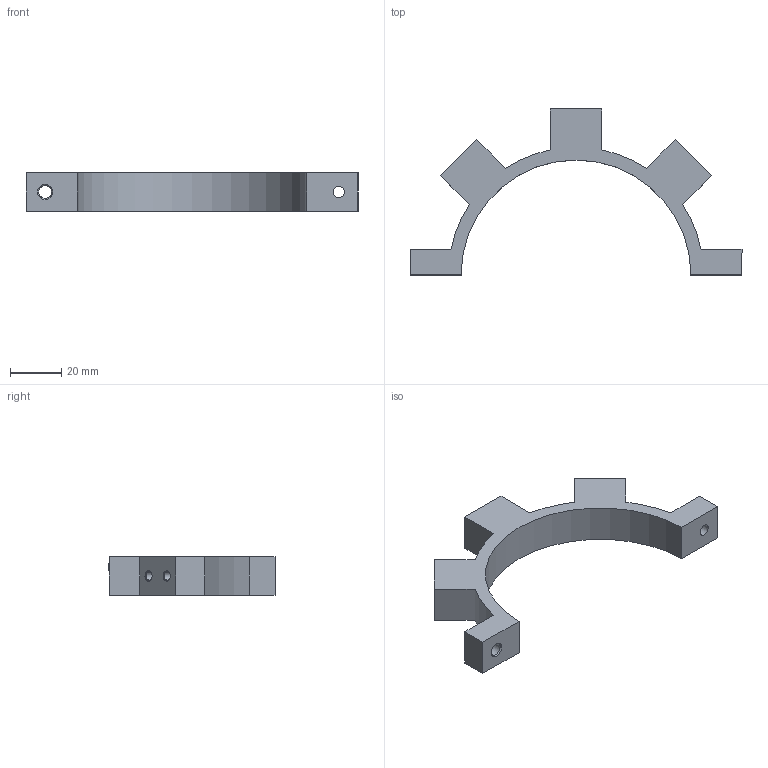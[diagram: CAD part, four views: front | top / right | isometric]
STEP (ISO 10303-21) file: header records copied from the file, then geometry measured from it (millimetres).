
FILE_DESCRIPTION(/* description */ (''),/* implementation_level */ '2;1');
FILE_NAME(/* name */ '紧固套.stp',/* time_stamp */ '2026-09-19T17:39:49+08:00',/* author */ (''),/* organization */ (''),/* preprocessor_version */ 'ST-DEVELOPER v20',/* originating_system */ 'SIEMENS PLM Software NX2312.1700',/* authorisation */ '');
FILE_SCHEMA (('AUTOMOTIVE_DESIGN { 1 0 10303 214 3 1 1 1 }'));
Length unit declared in the file: millimetre
Products named in the file (1): 紧固套
Bounding box: 130 x 65 x 15 mm (x, y, z)
Volume: 28700.6 mm3; surface area: 11773.4 mm2
Topology: 1 solids, 1 shells, 44 faces, 127 edges, 85 vertices
Faces by surface type: plane 17, cone 14, cylinder 13
Full cylindrical faces by diameter (mm): 3.3 x6, 4.5 x1, 5 x1
Entity records: 1210 total; most frequent: DIRECTION 208, CARTESIAN_POINT 199, ORIENTED_EDGE 168, EDGE_CURVE 84, AXIS2_PLACEMENT_3D 79, EDGE_LOOP 70, VERTEX_POINT 70, FACE_BOUND 61
